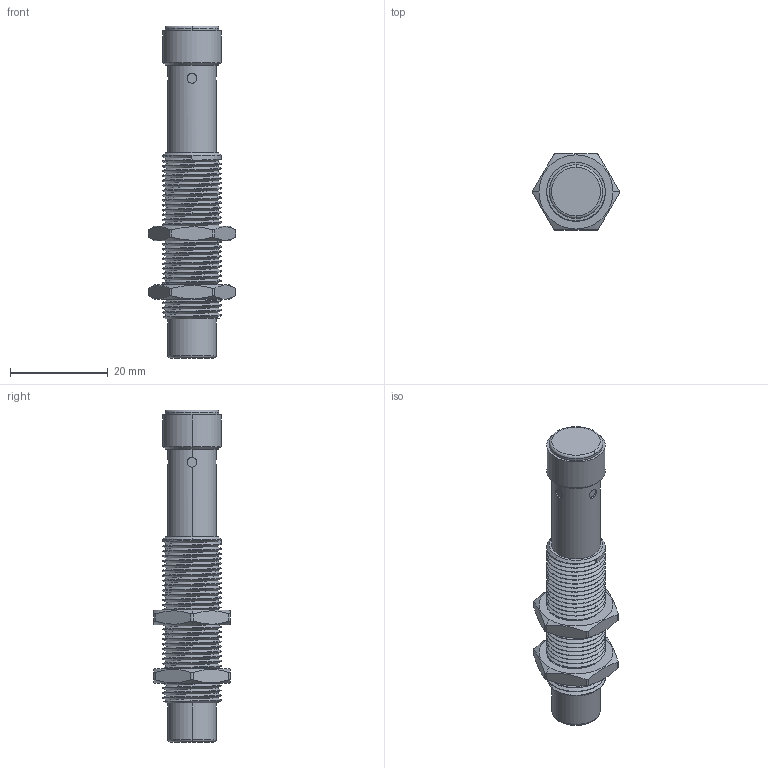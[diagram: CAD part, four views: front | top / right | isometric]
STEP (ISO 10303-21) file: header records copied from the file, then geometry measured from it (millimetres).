
FILE_DESCRIPTION((''),'2;1');
FILE_NAME('M12_JSFQP_DS1268_ASM','2019-07-16T',('Administrator'),(''),'PRO/ENGINEER BY PARAMETRIC TECHNOLOGY CORPORATION, 2012130','PRO/ENGINEER BY PARAMETRIC TECHNOLOGY CORPORATION, 2012130','');
FILE_SCHEMA(('AUTOMOTIVE_DESIGN { 1 0 10303 214 1 1 1 1 }'));
Length unit declared in the file: millimetre
Products named in the file (3): M12_JSFQP_DS1268; M12_LM; M12_JSFQP_DS1268_ASM
Assembly tree (3 placements, depth 2):
  M12_JSFQP_DS1268_ASM
    M12_JSFQP_DS1268
    M12_LM  x2
Bounding box: 17.85 x 15.59 x 68 mm (x, y, z)
Volume: 6966.1 mm3; surface area: 4663.4 mm2
Topology: 3 solids, 3 shells, 175 faces, 467 edges, 304 vertices
Faces by surface type: cylinder 106, plane 30, bspline 22, cone 13, torus 4
Entity records: 11741 total; most frequent: CARTESIAN_POINT 8023, ORIENTED_EDGE 784, DIRECTION 496, EDGE_CURVE 392, VERTEX_POINT 254, B_SPLINE_CURVE_WITH_KNOTS 211, AXIS2_PLACEMENT_3D 181, EDGE_LOOP 156
